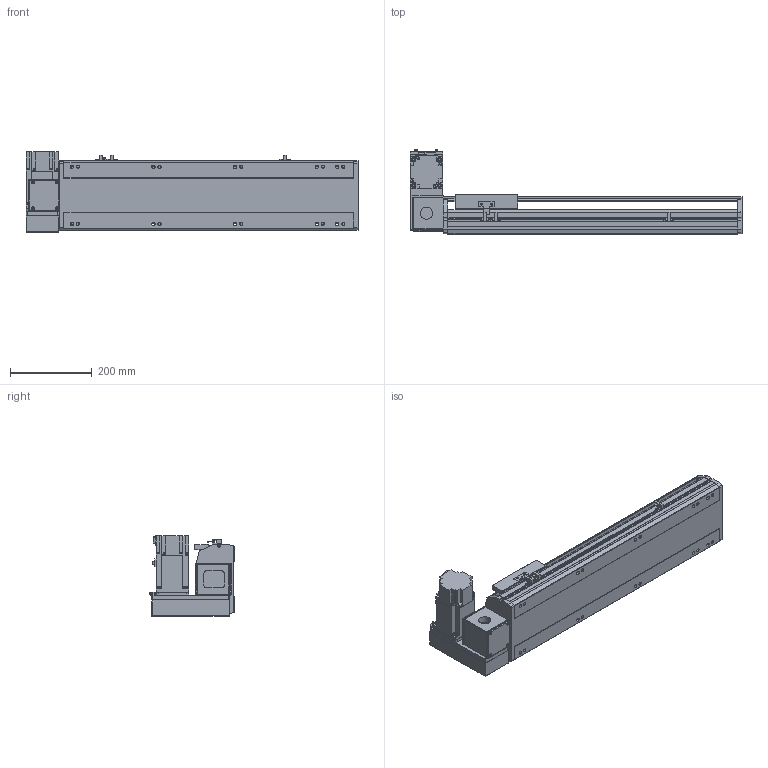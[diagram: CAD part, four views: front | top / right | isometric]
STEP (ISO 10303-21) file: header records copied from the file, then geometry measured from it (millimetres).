
FILE_DESCRIPTION( ( 'STEP AP214' ), '1' );
FILE_NAME( 'x:/temp/worker_4/temp/exporttempdir_2248_385_QAbED/format_0/PBS170-P40-S450-LU-T75-C1-N(0).stp', '2022-06-07T08:14:17', ( 'License CC BY-ND 4.0' ), ( 'CADENAS' ), ' ', 'PARTsolutions', ' ' );
FILE_SCHEMA( ( 'AUTOMOTIVE_DESIGN { 1 0 10303 214 1 1 1 1 }' ) );
Length unit declared in the file: millimetre
Products named in the file (7): PBS170-P40-S450-LU-T75-C1-N(0); _PBS170-S450()_body; _PBS170T-LU_motors; _T75-p1; _PBS170_sliser; _PBS170_plant; _PBS170_sensor
Assembly tree (8 placements, depth 2):
  PBS170-P40-S450-LU-T75-C1-N(0)
    _PBS170-S450()_body
    _PBS170T-LU_motors
    _T75-p1
    _PBS170_sliser
    _PBS170_plant
    _PBS170_sensor  x3
Bounding box: 813 x 206 x 197.3 mm (x, y, z)
Volume: 7068767.7 mm3; surface area: 968427.7 mm2
Topology: 8 solids, 8 shells, 1034 faces, 2755 edges, 1796 vertices
Faces by surface type: plane 669, cylinder 315, cone 40, sphere 8, torus 2
Full cylindrical faces by diameter (mm): 3.242 x4, 4 x2, 4.4 x4, 4.5 x6, 4.917 x4, 6 x9, 6.647 x18, 7 x2, 7.5 x4, 8 x8, 8.5 x10, 10 x4, 10.5 x10, 11 x2, 30 x2, 40 x1, 70 x1
Entity records: 37814 total; most frequent: CARTESIAN_POINT 5717, DIRECTION 5090, ORIENTED_EDGE 4848, EDGE_CURVE 2424, AXIS2_PLACEMENT_3D 1747, VERTEX_POINT 1658, LINE 1596, VECTOR 1596
